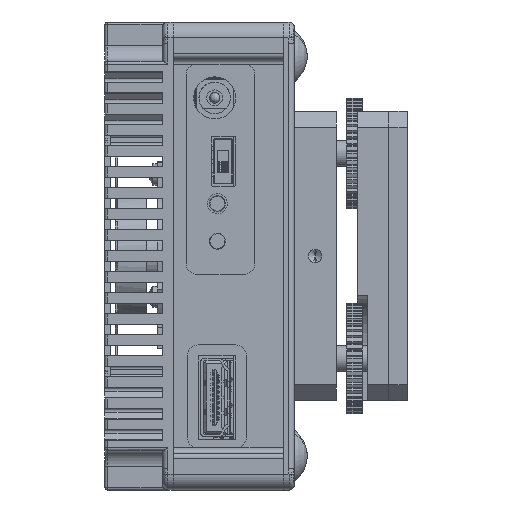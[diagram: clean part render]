
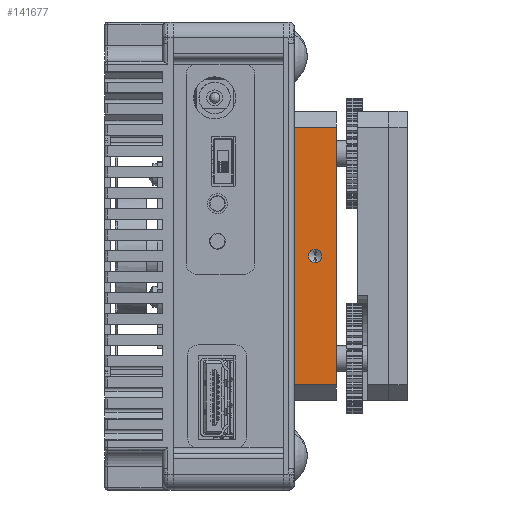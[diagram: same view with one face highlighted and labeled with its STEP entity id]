
A CAD part, left-side view. The second image highlights one B-rep face of the part: STEP entity #141677.
In plain terms, the highlighted planar face has unit normal (-1, 0, 0).
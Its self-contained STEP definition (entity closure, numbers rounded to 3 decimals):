
#4270 = LINE ( 'NONE', #90985, #127694 ) ;
#9769 = CARTESIAN_POINT ( 'NONE',  ( -27.5, 14., 1.25 ) ) ;
#12042 = LINE ( 'NONE', #182925, #173555 ) ;
#16473 = DIRECTION ( 'NONE',  ( 0., -1., 0. ) ) ;
#17115 = CARTESIAN_POINT ( 'NONE',  ( -27.5, 18., -24.5 ) ) ;
#28385 = ORIENTED_EDGE ( 'NONE', *, *, #53096, .F. ) ;
#30772 = CARTESIAN_POINT ( 'NONE',  ( -27.5, 14., 0. ) ) ;
#35166 = AXIS2_PLACEMENT_3D ( 'NONE', #30772, #163569, #106140 ) ;
#36219 = CARTESIAN_POINT ( 'NONE',  ( -27.5, 18., -24.5 ) ) ;
#37731 = CARTESIAN_POINT ( 'NONE',  ( -27.5, 18., 27.5 ) ) ;
#38669 = DIRECTION ( 'NONE',  ( 1., 0., 0. ) ) ;
#42394 = ORIENTED_EDGE ( 'NONE', *, *, #95453, .F. ) ;
#53096 = EDGE_CURVE ( 'NONE', #129916, #181486, #178174, .T. ) ;
#67292 = ORIENTED_EDGE ( 'NONE', *, *, #220622, .T. ) ;
#74244 = CARTESIAN_POINT ( 'NONE',  ( -27.5, 14., -1.25 ) ) ;
#84602 = LINE ( 'NONE', #36219, #137446 ) ;
#90985 = CARTESIAN_POINT ( 'NONE',  ( -27.5, 18., 24.5 ) ) ;
#95453 = EDGE_CURVE ( 'NONE', #181486, #129916, #152719, .T. ) ;
#103553 = VERTEX_POINT ( 'NONE', #212199 ) ;
#106140 = DIRECTION ( 'NONE',  ( 0., 0., 1. ) ) ;
#111116 = DIRECTION ( 'NONE',  ( -1., 0., 0. ) ) ;
#112435 = PLANE ( 'NONE',  #198964 ) ;
#114433 = VECTOR ( 'NONE', #169770, 1000. ) ;
#127694 = VECTOR ( 'NONE', #153283, 1000. ) ;
#129916 = VERTEX_POINT ( 'NONE', #9769 ) ;
#134283 = EDGE_LOOP ( 'NONE', ( #28385, #42394 ) ) ;
#137446 = VECTOR ( 'NONE', #16473, 1000. ) ;
#141677 = ADVANCED_FACE ( 'NONE', ( #213915, #172904 ), #112435, .F. ) ;
#145426 = ORIENTED_EDGE ( 'NONE', *, *, #159490, .T. ) ;
#146355 = VERTEX_POINT ( 'NONE', #224012 ) ;
#148901 = CARTESIAN_POINT ( 'NONE',  ( -27.5, 14., 0. ) ) ;
#151719 = VERTEX_POINT ( 'NONE', #166365 ) ;
#152719 = CIRCLE ( 'NONE', #35166, 1.25 ) ;
#153283 = DIRECTION ( 'NONE',  ( 0., 1., 0. ) ) ;
#153491 = EDGE_LOOP ( 'NONE', ( #67292, #171468, #164630, #145426 ) ) ;
#155646 = VERTEX_POINT ( 'NONE', #17115 ) ;
#159490 = EDGE_CURVE ( 'NONE', #155646, #146355, #84602, .T. ) ;
#163569 = DIRECTION ( 'NONE',  ( -1., 0., 0. ) ) ;
#164630 = ORIENTED_EDGE ( 'NONE', *, *, #227232, .F. ) ;
#166365 = CARTESIAN_POINT ( 'NONE',  ( -27.5, 10., 24.5 ) ) ;
#168305 = CARTESIAN_POINT ( 'NONE',  ( -27.5, 18., 27.5 ) ) ;
#169770 = DIRECTION ( 'NONE',  ( 0., 0., 1. ) ) ;
#171468 = ORIENTED_EDGE ( 'NONE', *, *, #182729, .T. ) ;
#172904 = FACE_OUTER_BOUND ( 'NONE', #153491, .T. ) ;
#173555 = VECTOR ( 'NONE', #198525, 1000. ) ;
#178174 = CIRCLE ( 'NONE', #179390, 1.25 ) ;
#179390 = AXIS2_PLACEMENT_3D ( 'NONE', #148901, #111116, #226037 ) ;
#181486 = VERTEX_POINT ( 'NONE', #74244 ) ;
#182729 = EDGE_CURVE ( 'NONE', #151719, #103553, #4270, .T. ) ;
#182925 = CARTESIAN_POINT ( 'NONE',  ( -27.5, 10., 27.5 ) ) ;
#187877 = LINE ( 'NONE', #37731, #114433 ) ;
#198525 = DIRECTION ( 'NONE',  ( 0., 0., 1. ) ) ;
#198964 = AXIS2_PLACEMENT_3D ( 'NONE', #168305, #38669, #242184 ) ;
#212199 = CARTESIAN_POINT ( 'NONE',  ( -27.5, 18., 24.5 ) ) ;
#213915 = FACE_BOUND ( 'NONE', #134283, .T. ) ;
#220622 = EDGE_CURVE ( 'NONE', #146355, #151719, #12042, .T. ) ;
#224012 = CARTESIAN_POINT ( 'NONE',  ( -27.5, 10., -24.5 ) ) ;
#226037 = DIRECTION ( 'NONE',  ( 0., 0., 1. ) ) ;
#227232 = EDGE_CURVE ( 'NONE', #155646, #103553, #187877, .T. ) ;
#242184 = DIRECTION ( 'NONE',  ( 0., 0., -1. ) ) ;
